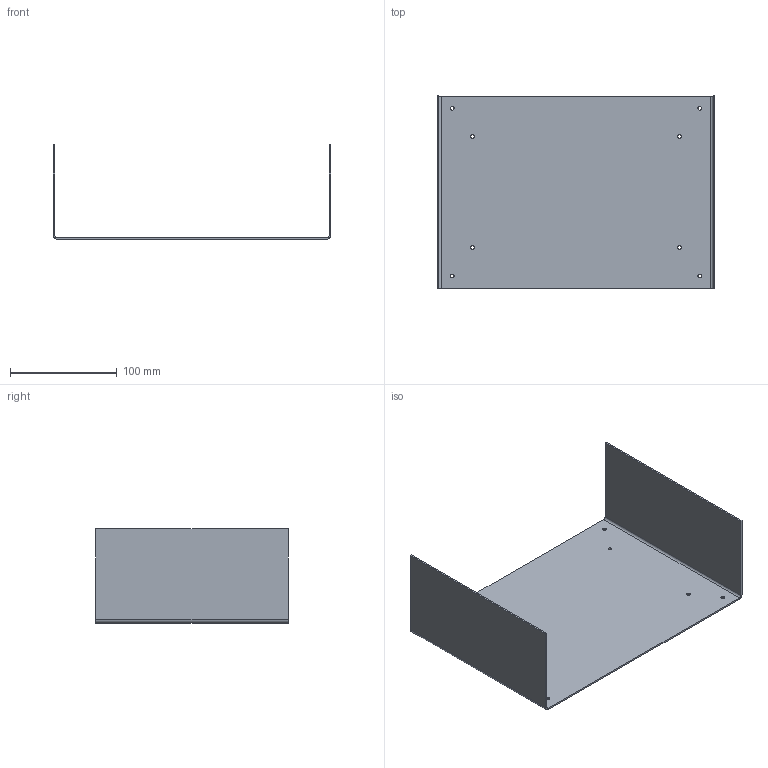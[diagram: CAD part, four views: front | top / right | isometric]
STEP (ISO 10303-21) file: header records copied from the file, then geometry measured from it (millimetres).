
FILE_DESCRIPTION(('Open CASCADE Model'),'2;1');
FILE_NAME('Open CASCADE Shape Model','2026-10-28T07:21:43',('Author'),( 'Open CASCADE'),'Open CASCADE STEP processor 7.8','Open CASCADE 7.8' ,'Unknown');
FILE_SCHEMA(('AUTOMOTIVE_DESIGN { 1 0 10303 214 1 1 1 1 }'));
Length unit declared in the file: millimetre
Products named in the file (1): Open CASCADE STEP translator 7.8 13
Bounding box: 260 x 180 x 88.5 mm (x, y, z)
Volume: 116433.7 mm3; surface area: 157208 mm2
Topology: 1 solids, 1 shells, 22 faces, 60 edges, 40 vertices
Faces by surface type: cylinder 12, plane 10
Full cylindrical faces by diameter (mm): 3.4 x8
Entity records: 1566 total; most frequent: CARTESIAN_POINT 315, DIRECTION 238, LINE 132, VECTOR 132, ORIENTED_EDGE 120, PCURVE 120, DEFINITIONAL_REPRESENTATION 120, EDGE_CURVE 60
